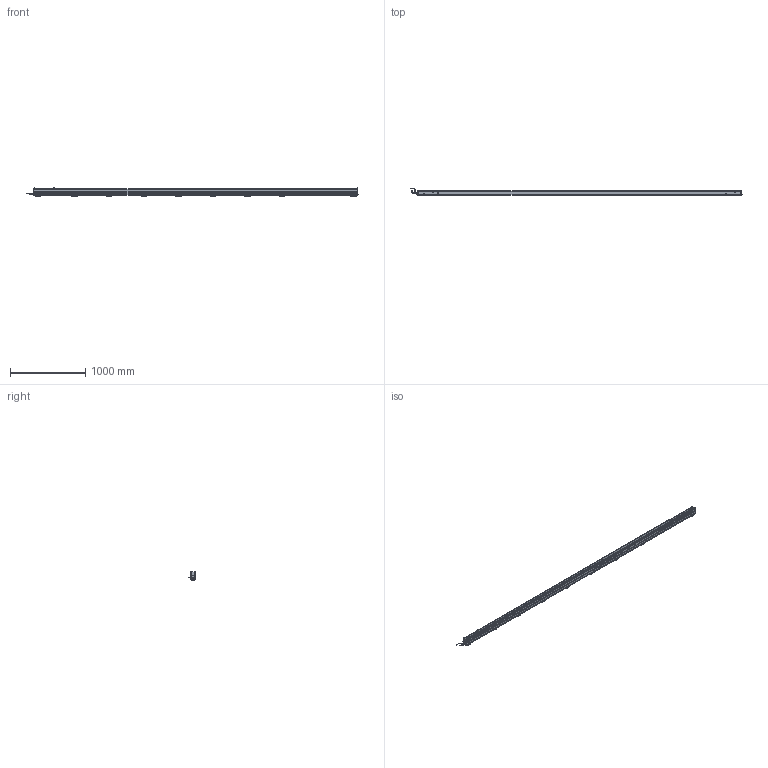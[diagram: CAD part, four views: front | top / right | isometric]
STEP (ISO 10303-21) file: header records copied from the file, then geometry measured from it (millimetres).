
FILE_DESCRIPTION(/* description */ (''),/* implementation_level */ '2;1');
FILE_NAME(/* name */ 'THUNDERION2_3D_4125-4320',/* time_stamp */ '2017-09-28T12:45:27+02:00',/* author */ (''),/* organization */ (''),/* preprocessor_version */ 'ST-DEVELOPER v15.7',/* originating_system */ 'HiCAD 2015 2002.1 Build 408',/* authorisation */ '');
FILE_SCHEMA (('AUTOMOTIVE_DESIGN { 1 0 10303 214 1 1 1 1 }'));
Products named in the file (145): Root; -_ThunderION 4125/4320; -_Side profile; -_Bar; -_Connector straight; EXTRUDED SOLID_0; -_Cord; REVOLVED SOLID_1; REVOLVED SOLID_3; DIN 13-M12x1,5; -_Connector angled; REVOLVED SOLID_2; 4532000100_Mounting bracket bars; -_Side piece; -_Slide piece; -_Bracket small; DIN 13-M3; DIN 76-M3; -_Cable End; light pipe M; light pipe L; -_Cap CE; -_Stud M4; -_Connector M12 male 5 pole_1; -_Contacts; ABSR_1_2_1_1_Inner part; ABSR_1_2_1_2_Inner part; bus; Pg 9; -_Ring tongue terminal; 9230000020_Nut M4; GEWINDE; 9240100020_Spring washer M4; ISO 7051-ST3.5x9.5-C-H_Tapping screws_0; -_Fill; -_Dead end; -_Cap DE; -_Emitter; -_Support Side Profile; -_End Plate
Assembly tree (144 placements, depth 6):
  Root
    -_ThunderION 4125/4320
      -_Side profile
      -_Side profile
      -_Bar
      -_Connector straight
        EXTRUDED SOLID_0
        -_Cord
        REVOLVED SOLID_1
        REVOLVED SOLID_3
          DIN 13-M12x1,5
      -_Connector angled
        REVOLVED SOLID_1
        EXTRUDED SOLID_0
        -_Cord
        REVOLVED SOLID_2
        REVOLVED SOLID_3
          DIN 13-M12x1,5
      4532000100_Mounting bracket bars
        -_Side piece
        -_Side piece
        -_Slide piece
        -_Bracket small
          DIN 13-M3
          DIN 13-M3
          DIN 76-M3
          DIN 76-M3
      4532000100_Mounting bracket bars
        -_Side piece
        -_Side piece
        -_Slide piece
        -_Bracket small
          DIN 13-M3
          DIN 13-M3
          DIN 76-M3
          DIN 76-M3
      4532000100_Mounting bracket bars
        -_Side piece
        -_Side piece
        -_Slide piece
        -_Bracket small
          DIN 13-M3
          DIN 13-M3
          DIN 76-M3
          DIN 76-M3
      4532000100_Mounting bracket bars
        -_Side piece
        -_Side piece
        -_Slide piece
        -_Bracket small
          DIN 13-M3
          DIN 13-M3
          DIN 76-M3
          DIN 76-M3
      4532000100_Mounting bracket bars
        -_Side piece
        -_Side piece
        -_Slide piece
        -_Bracket small
          DIN 13-M3
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Bounding box: 4398.34 x 92.21 x 113 mm (x, y, z)
Volume: 13621968.2 mm3; surface area: 3103989.3 mm2
Topology: 133 solids, 160 shells, 7428 faces, 18915 edges, 11383 vertices
Faces by surface type: cylinder 3046, plane 3006, torus 413, bspline 408, sphere 370, cone 185
Full cylindrical faces by diameter (mm): 0.8 x10, 1 x10, 2.387 x36, 2.5 x1, 2.64 x16, 3 x72, 3.141 x2, 3.5 x8, 4 x26, 4.2 x3, 4.4 x1, 5 x4, 5.5 x45, 7.3 x8, 8 x2, 8.4 x2, 9 x6, 9.6 x1, 10 x2, 10.16 x1, 10.5 x2, 11 x4, 12 x5, 12.8 x1, 13.8 x4, 13.86 x1, 14.5 x3, 15.199 x1, 15.2 x1
Entity records: 430526 total; most frequent: CARTESIAN_POINT 112771, DIRECTION 36801, PRESENTATION_STYLE_ASSIGNMENT 35870, OVER_RIDING_STYLED_ITEM 35741, DRAUGHTING_PRE_DEFINED_CURVE_FONT 35684, CURVE_STYLE 35684, ORIENTED_EDGE 35684, EDGE_CURVE 17842
